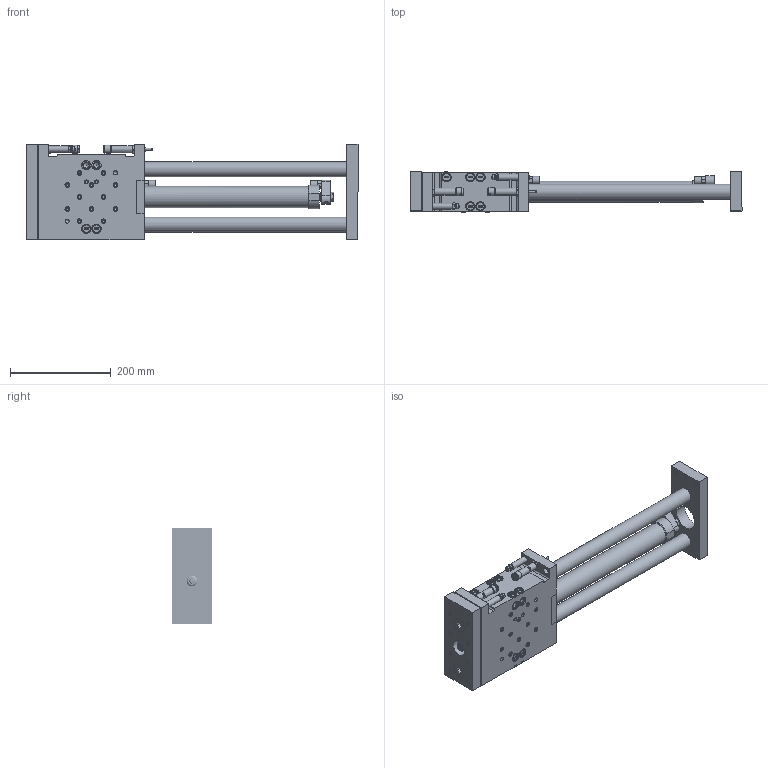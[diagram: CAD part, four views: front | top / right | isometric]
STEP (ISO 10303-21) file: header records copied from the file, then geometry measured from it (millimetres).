
FILE_DESCRIPTION((''),'2;1');
FILE_NAME('V:\CAD\Inventor-Stp\Linearelemente\Kugelbüchsenführungen\GLE 40\inv\1000054\1000054.stp','2007-05-29T14:03:04',('is'),(''),'Autodesk Inventor 10','Autodesk Inventor 10','');
FILE_SCHEMA(('AUTOMOTIVE_DESIGN { 1 0 10303 214 1 1 1 1 }'));
Length unit declared in the file: millimetre
Products named in the file (3): 1000054; 1000054-a; 1000054-b
Assembly tree (2 placements, depth 2):
  1000054
    1000054-a
    1000054-b
Bounding box: 660 x 81.36 x 190 mm (x, y, z)
Volume: 4020958.2 mm3; surface area: 701331.8 mm2
Topology: 79 solids, 90 shells, 1676 faces, 3703 edges, 2386 vertices
Faces by surface type: plane 601, bspline 476, cylinder 293, cone 227, torus 79
Full cylindrical faces by diameter (mm): 1 x4, 1.4 x2, 1.97 x2, 2 x8, 2.3 x2, 3.4 x2, 3.5 x2, 3.6 x2, 4 x8, 4.2 x2, 4.3 x2, 5 x9, 5.5 x1, 6 x2, 6.8 x2, 7.2 x2, 7.3 x2, 7.4 x2, 7.8 x2, 8 x8, 8.2 x2, 8.4 x2, 8.5 x4, 9 x6, 9.2 x2, 9.7 x4, 10 x6, 10.5 x1, 11.4 x15, 11.5 x2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
Entity records: 48488 total; most frequent: CARTESIAN_POINT 17971, DIRECTION 6056, ORIENTED_EDGE 5054, EDGE_LOOP 2870, AXIS2_PLACEMENT_3D 2636, EDGE_CURVE 2527, VERTEX_POINT 2010, FACE_OUTER_BOUND 1666
